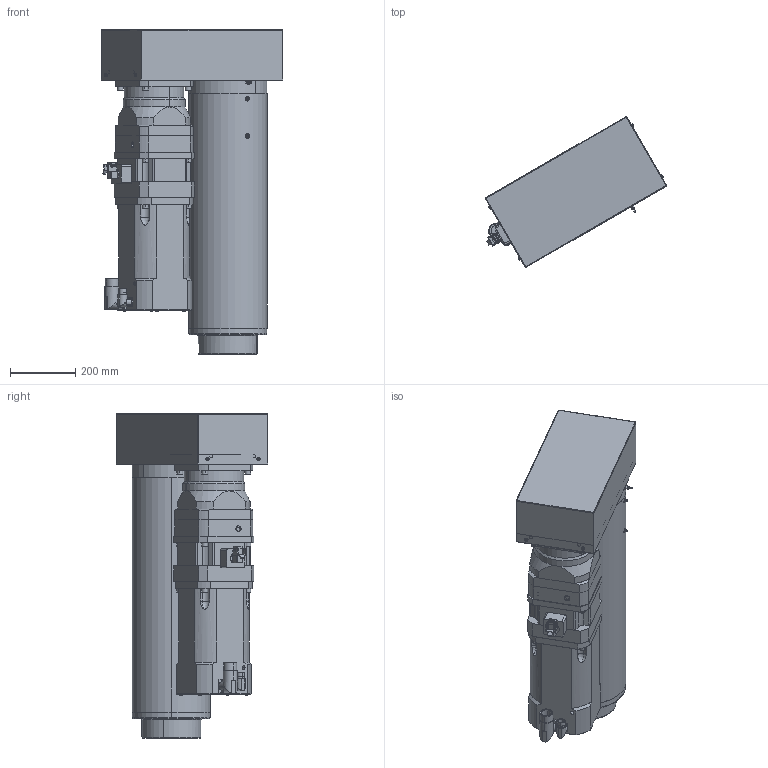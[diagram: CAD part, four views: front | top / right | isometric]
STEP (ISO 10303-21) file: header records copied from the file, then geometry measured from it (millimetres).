
FILE_DESCRIPTION (( 'STEP AP214' ), '1' );
FILE_NAME ('RLWPK200D-035-010SG0.STEP', '2023-04-06T06:33:15', ( '' ), ( '' ), 'SwSTEP 2.0', 'SolidWorks 2021', '' );
FILE_SCHEMA (( 'AUTOMOTIVE_DESIGN' ));
Length unit declared in the file: millimetre
Products named in the file (1): RLWPK200D-035-010SG0
Bounding box: 555.08 x 462.48 x 992 mm (x, y, z)
Surface area: 3873080.9 mm2 (no closed solid volume)
Topology: 0 solids, 44 shells, 1710 faces, 4075 edges, 2482 vertices
Faces by surface type: plane 686, cylinder 680, cone 256, torus 78, bspline 10
Entity records: 69479 total; most frequent: CARTESIAN_POINT 10355, DIRECTION 8848, ORIENTED_EDGE 7814, EDGE_CURVE 3913, AXIS2_PLACEMENT_3D 3394, VERTEX_POINT 2482, VECTOR 2060, LINE 2060
